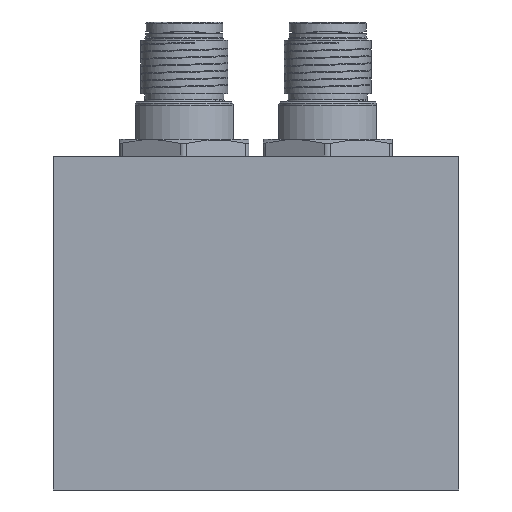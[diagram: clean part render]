
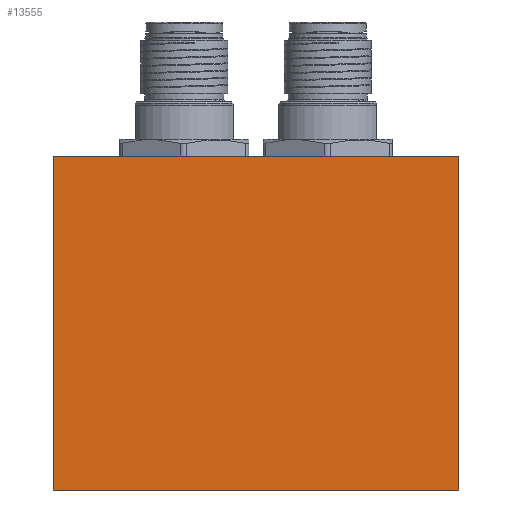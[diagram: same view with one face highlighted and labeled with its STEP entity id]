
A CAD part, left-side view. The second image highlights one B-rep face of the part: STEP entity #13555.
In plain terms, the highlighted planar face has unit normal (-1, 0, 0).
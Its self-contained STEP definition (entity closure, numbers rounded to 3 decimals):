
#1016=PLANE('',#14434);
#1409=FACE_OUTER_BOUND('',#2189,.T.);
#2189=EDGE_LOOP('',(#9569,#9570,#9571,#9572));
#3054=LINE('',#19584,#4196);
#3102=LINE('',#19692,#4244);
#3113=LINE('',#19738,#4255);
#3114=LINE('',#19739,#4256);
#4196=VECTOR('',#15569,1000.);
#4244=VECTOR('',#15641,1000.);
#4255=VECTOR('',#15682,1000.);
#4256=VECTOR('',#15683,1000.);
#5787=VERTEX_POINT('',#19577);
#5790=VERTEX_POINT('',#19582);
#5836=VERTEX_POINT('',#19686);
#5838=VERTEX_POINT('',#19690);
#7283=EDGE_CURVE('',#5790,#5787,#3054,.T.);
#7331=EDGE_CURVE('',#5836,#5838,#3102,.T.);
#7354=EDGE_CURVE('',#5838,#5787,#3113,.T.);
#7355=EDGE_CURVE('',#5836,#5790,#3114,.T.);
#9569=ORIENTED_EDGE('',*,*,#7354,.T.);
#9570=ORIENTED_EDGE('',*,*,#7283,.F.);
#9571=ORIENTED_EDGE('',*,*,#7355,.F.);
#9572=ORIENTED_EDGE('',*,*,#7331,.T.);
#13555=ADVANCED_FACE('',(#1409),#1016,.F.);
#14434=AXIS2_PLACEMENT_3D('',#19737,#15680,#15681);
#15569=DIRECTION('',(0.,0.,-1.));
#15641=DIRECTION('',(0.,0.,-1.));
#15680=DIRECTION('center_axis',(1.,0.,0.));
#15681=DIRECTION('ref_axis',(0.,1.,0.));
#15682=DIRECTION('',(0.,-1.,0.));
#15683=DIRECTION('',(0.,-1.,0.));
#19577=CARTESIAN_POINT('',(-23.,-28.,0.));
#19582=CARTESIAN_POINT('',(-23.,-28.,46.));
#19584=CARTESIAN_POINT('',(-23.,-28.,46.));
#19686=CARTESIAN_POINT('',(-23.,28.,46.));
#19690=CARTESIAN_POINT('',(-23.,28.,0.));
#19692=CARTESIAN_POINT('',(-23.,28.,46.));
#19737=CARTESIAN_POINT('Origin',(-23.,28.,46.));
#19738=CARTESIAN_POINT('',(-23.,28.,0.));
#19739=CARTESIAN_POINT('',(-23.,28.,46.));
